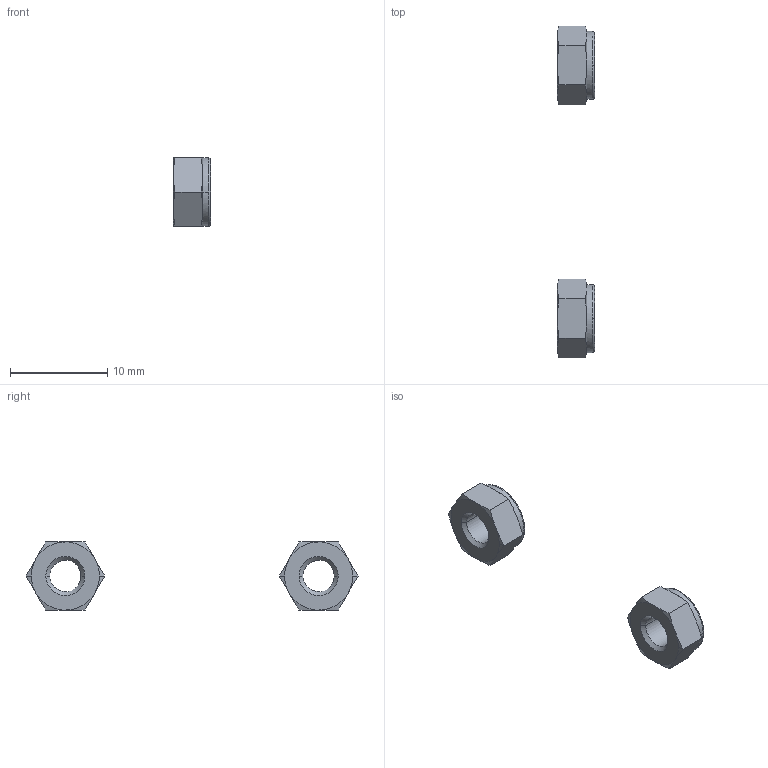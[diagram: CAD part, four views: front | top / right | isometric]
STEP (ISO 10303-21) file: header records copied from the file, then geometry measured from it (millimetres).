
FILE_DESCRIPTION(/* description */ (''),/* implementation_level */ '2;1');
FILE_NAME(/* name */ '6.y-drive#6.4#UNUTZ4',/* time_stamp */ '2014-12-01T20:14:55+01:00',/* author */ (''),/* organization */ (''),/* preprocessor_version */ 'ST-DEVELOPER v14',/* originating_system */ '',/* authorisation */ '');
FILE_SCHEMA (('AUTOMOTIVE_DESIGN'));
Length unit declared in the file: millimetre
Products named in the file (1): Document
Bounding box: 3.8 x 34.08 x 7 mm (x, y, z)
Volume: 230.7 mm3; surface area: 401.3 mm2
Topology: 2 solids, 2 shells, 108 faces, 260 edges, 156 vertices
Faces by surface type: bspline 62, plane 46
Entity records: 7005 total; most frequent: CARTESIAN_POINT 3757, ORIENTED_EDGE 520, PCURVE 520, DEFINITIONAL_REPRESENTATION 520, B_SPLINE_CURVE_WITH_KNOTS 498, SURFACE_CURVE 260, EDGE_CURVE 260, VERTEX_POINT 156
